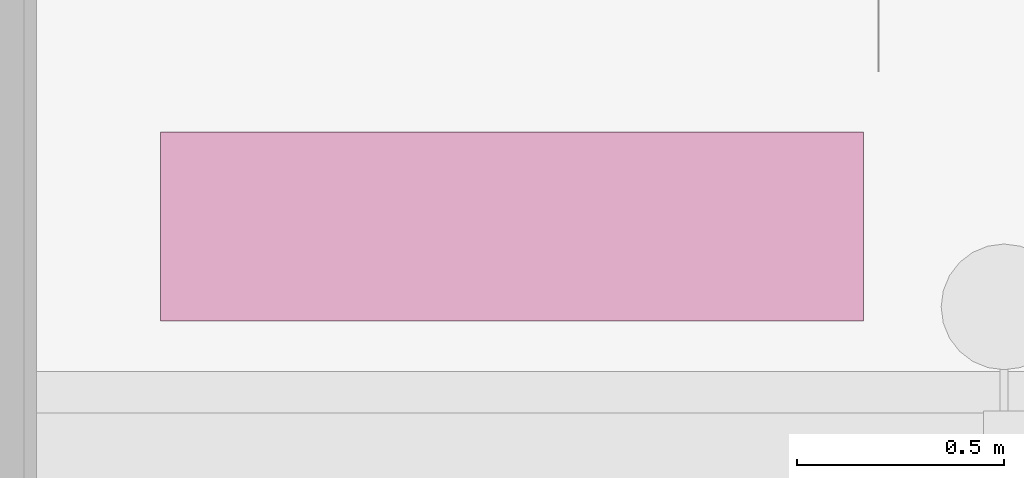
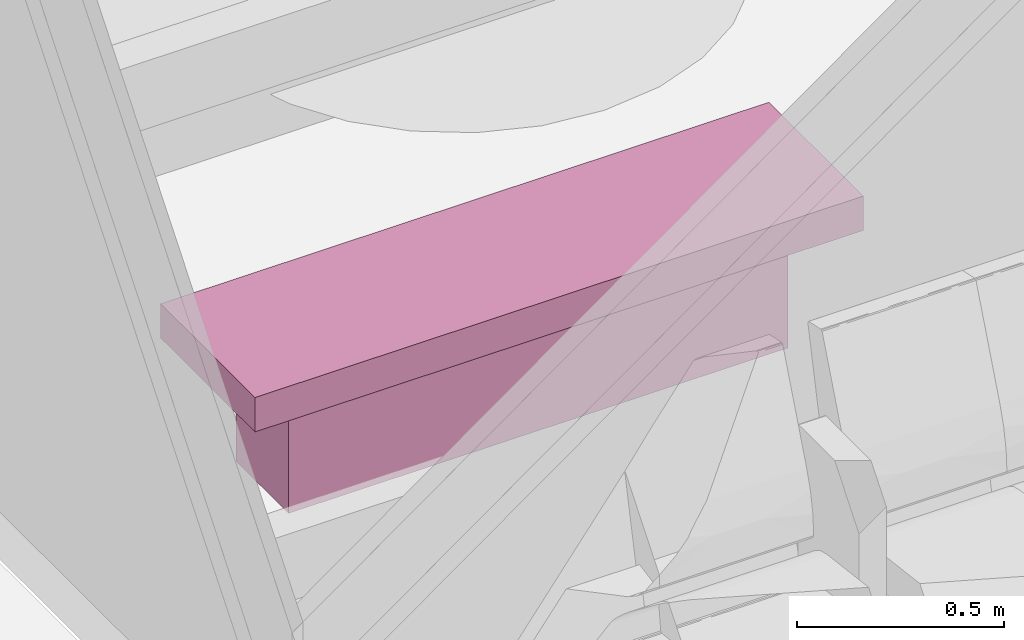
# One storey, part 119 of 155: 1 furnishing.
"""IFC2X3 building model written with IfcOpenShell, lengths in metres."""

from ifc_helpers import new_model, entity, si_unit, converted_unit, derived_unit, direction, frame, origin, origin_2d_with_axis, place, context, subcontext, project, spatial, rectangle, extrude, source, transform, mapped, material, type_object, type_shapes, element, save


model = new_model("IFC2X3")

# Units and contexts
model_context = context("Model", 3, precision=1e-05, world=origin(), true_north=direction((6.12303176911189e-17, 1.0)))
body_context = subcontext(model_context, "Body", "Model", "MODEL_VIEW")
ifc_project = project(units=[si_unit("LENGTHUNIT", "METRE"), si_unit("AREAUNIT", "SQUARE_METRE"), si_unit("VOLUMEUNIT", "CUBIC_METRE"), converted_unit("PLANEANGLEUNIT", "DEGREE", entity("IfcRatioMeasure", 0.0174532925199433), si_unit("PLANEANGLEUNIT", "RADIAN"), dimensions=[0, 0, 0, 0, 0, 0, 0]), si_unit("MASSUNIT", "GRAM", prefix="KILO"), derived_unit("MASSDENSITYUNIT", [(si_unit("MASSUNIT", "GRAM", prefix="KILO"), 1), (si_unit("LENGTHUNIT", "METRE"), -3)]), si_unit("TIMEUNIT", "SECOND"), si_unit("FREQUENCYUNIT", "HERTZ"), si_unit("THERMODYNAMICTEMPERATUREUNIT", "DEGREE_CELSIUS"), derived_unit("THERMALTRANSMITTANCEUNIT", [(si_unit("MASSUNIT", "GRAM", prefix="KILO"), 1), (si_unit("THERMODYNAMICTEMPERATUREUNIT", "KELVIN"), -1), (si_unit("TIMEUNIT", "SECOND"), -3)]), derived_unit("VOLUMETRICFLOWRATEUNIT", [(si_unit("LENGTHUNIT", "METRE"), 3), (si_unit("TIMEUNIT", "SECOND"), -1)]), si_unit("ELECTRICCURRENTUNIT", "AMPERE"), si_unit("ELECTRICVOLTAGEUNIT", "VOLT"), si_unit("POWERUNIT", "WATT"), si_unit("FORCEUNIT", "NEWTON", prefix="KILO"), si_unit("ILLUMINANCEUNIT", "LUX"), si_unit("LUMINOUSFLUXUNIT", "LUMEN"), si_unit("LUMINOUSINTENSITYUNIT", "CANDELA"), derived_unit("USERDEFINED", [(si_unit("MASSUNIT", "GRAM", prefix="KILO"), -1), (si_unit("LENGTHUNIT", "METRE"), -2), (si_unit("TIMEUNIT", "SECOND"), 3), (si_unit("LUMINOUSFLUXUNIT", "LUMEN"), 1)]), derived_unit("LINEARVELOCITYUNIT", [(si_unit("LENGTHUNIT", "METRE"), 1), (si_unit("TIMEUNIT", "SECOND"), -1)]), si_unit("PRESSUREUNIT", "PASCAL"), derived_unit("USERDEFINED", [(si_unit("LENGTHUNIT", "METRE"), -2), (si_unit("MASSUNIT", "GRAM", prefix="KILO"), 1), (si_unit("TIMEUNIT", "SECOND"), -2)])], contexts=[model_context])

# Site, building, storey, space
site_placement = place(None, frame((26.9889013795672, -17.5624287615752, 0.0)))
site = spatial("IfcSite", under=ifc_project, at=site_placement, Name="Default", CompositionType="ELEMENT")
building_placement = place(site_placement, origin())
building = spatial("IfcBuilding", under=site, at=building_placement, Name="C. C. L. Monsenhor Antônio Sampaio", CompositionType="ELEMENT")
storey_placement = place(building_placement, frame((0.0, 0.0, 1.19999999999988)))
storey = spatial("IfcBuildingStorey", under=building, at=storey_placement, Name="Nível 1.2", CompositionType="ELEMENT", Elevation=1.19999999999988)
space_placement = place(storey_placement, origin())
space = spatial("IfcSpace", under=storey, at=space_placement, Name="118", CompositionType="ELEMENT", InteriorOrExteriorSpace="INTERNAL")

# Furnishing
ifc_material = material(Name="Concrete")
furniture_type = type_object("IfcFurnitureType", Name="Concrete_Bench_7009", material=ifc_material)
shared_shape = source(origin(), body_context, "Body", "SweptSolid", [
    extrude(rectangle(XDim=0.254, YDim=1.3952, at=origin_2d_with_axis()), frame((0.849999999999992, 0.0, 0.0), z_axis=(0.0, 0.0, 1.0), x_axis=(0.0, 1.0, 0.0)), (0.0, 0.0, 1.0), 0.3556),
    extrude(rectangle(XDim=0.4572, YDim=1.7, at=origin_2d_with_axis()), frame((0.849999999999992, 0.0, 0.355599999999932), z_axis=(0.0, 0.0, 1.0), x_axis=(0.0, 1.0, 0.0)), (0.0, 0.0, 1.0), 0.1016),
])
type_shapes(furniture_type, [shared_shape])
furnishing_placement = place(space_placement, frame((-13.6905522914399, -9.00306634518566, 0.0)))
element("IfcFurnishingElement", 1, at=furnishing_placement, inside=space, type_object=furniture_type, material=ifc_material, Name="Banco Concreto:Concrete_Bench_7009", ObjectType="Concrete_Bench_7009", context=body_context, shape_type="MappedRepresentation", body=[
    mapped(shared_shape, transform((0.0, 0.0, 0.0), scale=1.0)),
])

save(model, "model.ifc")
